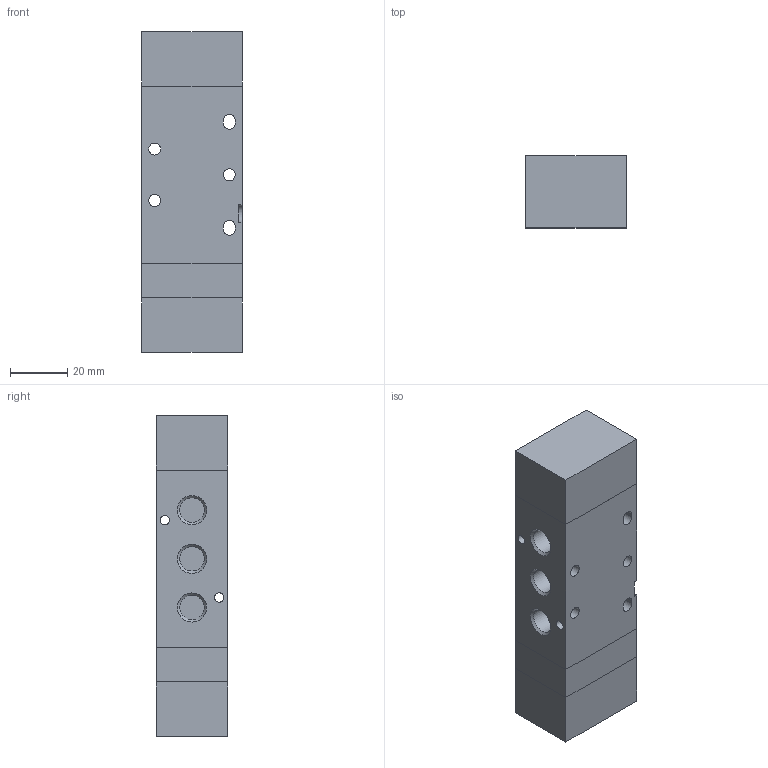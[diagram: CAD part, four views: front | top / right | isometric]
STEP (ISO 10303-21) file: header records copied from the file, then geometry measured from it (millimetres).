
FILE_DESCRIPTION((''),'2;1');
FILE_NAME('K:\A-Roberto\_Inventor\Rev.Librerie\TECNOECO\T488_53_##_11_11.stp','2006-10-06T08:47:31',('rivolro1'),(''),'Autodesk Inventor 11','Autodesk Inventor 11','');
FILE_SCHEMA(('AUTOMOTIVE_DESIGN { 1 0 10303 214 1 1 1 1 }'));
Length unit declared in the file: millimetre
Products named in the file (1): T488_53_##_11_11
Bounding box: 35 x 25 x 112 mm (x, y, z)
Volume: 93028.3 mm3; surface area: 18518 mm2
Topology: 1 solids, 1 shells, 63 faces, 148 edges, 97 vertices
Faces by surface type: plane 31, bspline 23, cylinder 9
Full cylindrical faces by diameter (mm): 4.2 x3
Entity records: 1951 total; most frequent: CARTESIAN_POINT 579, ORIENTED_EDGE 254, DIRECTION 252, EDGE_CURVE 127, EDGE_LOOP 106, VERTEX_POINT 95, AXIS2_PLACEMENT_3D 84, VECTOR 84
